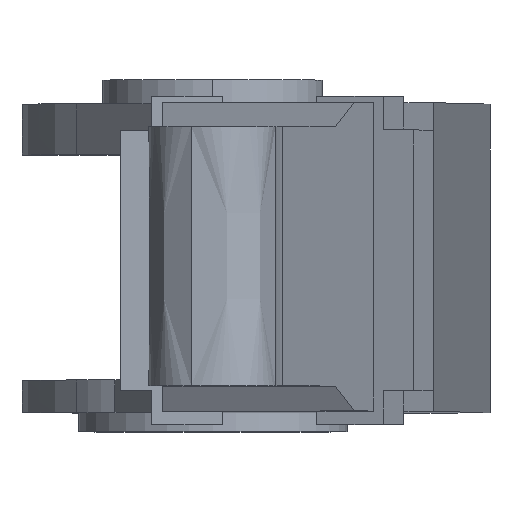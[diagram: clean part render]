
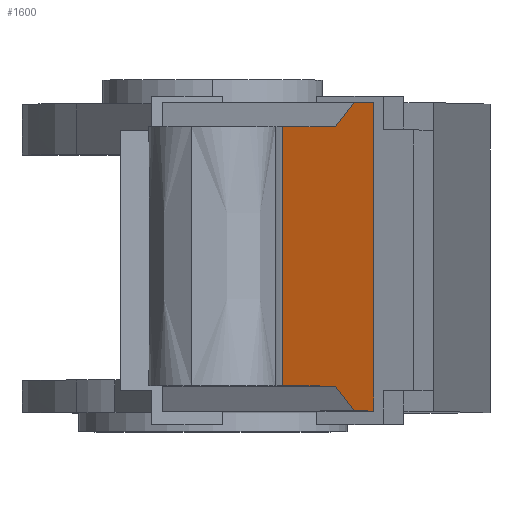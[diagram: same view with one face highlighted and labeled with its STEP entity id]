
A CAD part, top view. The second image highlights one B-rep face of the part: STEP entity #1600.
In plain terms, the highlighted planar face has unit normal (0.936, 0, 0.352).
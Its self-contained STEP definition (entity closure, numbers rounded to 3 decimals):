
#36 = VERTEX_POINT ( 'NONE', #747 ) ;
#108 = EDGE_CURVE ( 'NONE', #1922, #36, #1047, .T. ) ;
#257 = EDGE_CURVE ( 'NONE', #398, #397, #1932, .T. ) ;
#279 = ORIENTED_EDGE ( 'NONE', *, *, #1288, .T. ) ;
#286 = EDGE_CURVE ( 'NONE', #493, #2447, #2084, .T. ) ;
#307 = ORIENTED_EDGE ( 'NONE', *, *, #1530, .T. ) ;
#316 = ORIENTED_EDGE ( 'NONE', *, *, #108, .T. ) ;
#389 = VERTEX_POINT ( 'NONE', #1633 ) ;
#397 = VERTEX_POINT ( 'NONE', #1721 ) ;
#398 = VERTEX_POINT ( 'NONE', #1729 ) ;
#493 = VERTEX_POINT ( 'NONE', #643 ) ;
#585 = EDGE_CURVE ( 'NONE', #389, #1216, #1352, .T. ) ;
#643 = CARTESIAN_POINT ( 'NONE',  ( 286.741, 94., 1459.067 ) ) ;
#747 = CARTESIAN_POINT ( 'NONE',  ( 300.129, 111.5, 1423.487 ) ) ;
#899 = EDGE_CURVE ( 'NONE', #397, #1216, #1806, .T. ) ;
#987 = ORIENTED_EDGE ( 'NONE', *, *, #899, .T. ) ;
#1047 = LINE ( 'NONE', #1048, #1049 ) ;
#1048 = CARTESIAN_POINT ( 'NONE',  ( 356., 111.5, 1275. ) ) ;
#1049 = VECTOR ( 'NONE', #1050, 1000. ) ;
#1050 = DIRECTION ( 'NONE',  ( -0.352, 0., 0.936 ) ) ;
#1129 = ORIENTED_EDGE ( 'NONE', *, *, #257, .T. ) ;
#1216 = VERTEX_POINT ( 'NONE', #2022 ) ;
#1288 = EDGE_CURVE ( 'NONE', #2447, #398, #2058, .T. ) ;
#1352 = LINE ( 'NONE', #1353, #1354 ) ;
#1353 = CARTESIAN_POINT ( 'NONE',  ( 356., -106.5, 1275. ) ) ;
#1354 = VECTOR ( 'NONE', #1355, 1000. ) ;
#1355 = DIRECTION ( 'NONE',  ( -0.352, 0., 0.936 ) ) ;
#1407 = ORIENTED_EDGE ( 'NONE', *, *, #286, .T. ) ;
#1530 = EDGE_CURVE ( 'NONE', #36, #493, #2134, .T. ) ;
#1597 = LINE ( 'NONE', #1598, #1599 ) ;
#1598 = CARTESIAN_POINT ( 'NONE',  ( 313.949, 92., 1386.757 ) ) ;
#1599 = VECTOR ( 'NONE', #1603, 1000. ) ;
#1600 = ADVANCED_FACE ( 'NONE', ( #2160 ), #2161, .T. ) ;
#1603 = DIRECTION ( 'NONE',  ( 0., -1., 0. ) ) ;
#1633 = CARTESIAN_POINT ( 'NONE',  ( 313.949, -106.5, 1386.757 ) ) ;
#1721 = CARTESIAN_POINT ( 'NONE',  ( 286.75, -89., 1459.042 ) ) ;
#1729 = CARTESIAN_POINT ( 'NONE',  ( 249.551, -89., 1557.905 ) ) ;
#1737 = CARTESIAN_POINT ( 'NONE',  ( 249.551, 94., 1557.905 ) ) ;
#1780 = ORIENTED_EDGE ( 'NONE', *, *, #585, .F. ) ;
#1806 = LINE ( 'NONE', #1807, #1808 ) ;
#1807 = CARTESIAN_POINT ( 'NONE',  ( 346.232, -166.754, 1300.961 ) ) ;
#1808 = VECTOR ( 'NONE', #1809, 1000. ) ;
#1809 = DIRECTION ( 'NONE',  ( 0.32, -0.418, -0.85 ) ) ;
#1922 = VERTEX_POINT ( 'NONE', #2262 ) ;
#1932 = LINE ( 'NONE', #1933, #1934 ) ;
#1933 = CARTESIAN_POINT ( 'NONE',  ( 284.87, -89., 1464.039 ) ) ;
#1934 = VECTOR ( 'NONE', #1935, 1000. ) ;
#1935 = DIRECTION ( 'NONE',  ( 0.352, 0., -0.936 ) ) ;
#2022 = CARTESIAN_POINT ( 'NONE',  ( 300.138, -106.5, 1423.463 ) ) ;
#2058 = LINE ( 'NONE', #2059, #2060 ) ;
#2059 = CARTESIAN_POINT ( 'NONE',  ( 249.551, -89., 1557.905 ) ) ;
#2060 = VECTOR ( 'NONE', #2061, 1000. ) ;
#2061 = DIRECTION ( 'NONE',  ( 0., -1., 0. ) ) ;
#2084 = LINE ( 'NONE', #2085, #2091 ) ;
#2085 = CARTESIAN_POINT ( 'NONE',  ( 295.666, 94., 1435.348 ) ) ;
#2091 = VECTOR ( 'NONE', #2092, 1000. ) ;
#2092 = DIRECTION ( 'NONE',  ( -0.352, 0., 0.936 ) ) ;
#2134 = LINE ( 'NONE', #2135, #2136 ) ;
#2135 = CARTESIAN_POINT ( 'NONE',  ( 317.068, 133.643, 1378.467 ) ) ;
#2136 = VECTOR ( 'NONE', #2137, 1000. ) ;
#2137 = DIRECTION ( 'NONE',  ( -0.32, -0.418, 0.85 ) ) ;
#2160 = FACE_OUTER_BOUND ( 'NONE', #2409, .T. ) ;
#2161 = PLANE ( 'NONE',  #2162 ) ;
#2162 = AXIS2_PLACEMENT_3D ( 'NONE', #2163, #2164, #2165 ) ;
#2163 = CARTESIAN_POINT ( 'NONE',  ( 356., -106.5, 1275. ) ) ;
#2164 = DIRECTION ( 'NONE',  ( 0.936, 0., 0.352 ) ) ;
#2165 = DIRECTION ( 'NONE',  ( 0.352, 0., -0.936 ) ) ;
#2262 = CARTESIAN_POINT ( 'NONE',  ( 313.949, 111.5, 1386.757 ) ) ;
#2409 = EDGE_LOOP ( 'NONE', ( #1780, #2424, #316, #307, #1407, #279, #1129, #987 ) ) ;
#2422 = EDGE_CURVE ( 'NONE', #1922, #389, #1597, .T. ) ;
#2424 = ORIENTED_EDGE ( 'NONE', *, *, #2422, .F. ) ;
#2447 = VERTEX_POINT ( 'NONE', #1737 ) ;
